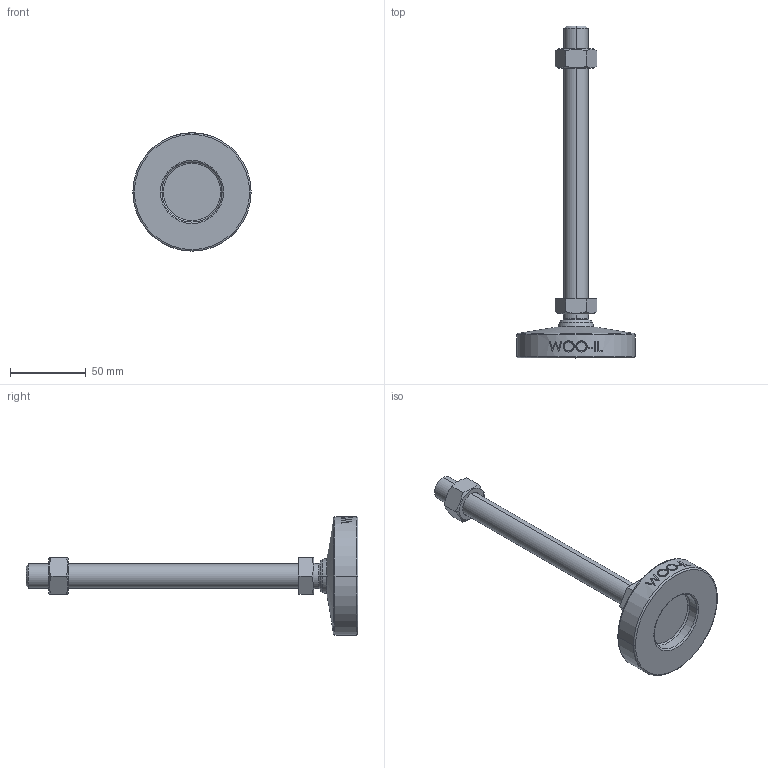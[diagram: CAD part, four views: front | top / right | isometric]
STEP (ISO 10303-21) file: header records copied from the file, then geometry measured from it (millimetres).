
FILE_DESCRIPTION (( 'STEP AP214' ), '1' );
FILE_NAME ('MFN78-M16-180.step', '2021-01-19T06:29:52', ( '' ), ( '' ), 'SwSTEP 2.0', 'SolidWorks 2019', '' );
FILE_SCHEMA (( 'AUTOMOTIVE_DESIGN' ));
Length unit declared in the file: millimetre
Products named in the file (2): MFN78-M16-180
Bounding box: 78 x 219 x 78 mm (x, y, z)
Volume: 123879.1 mm3; surface area: 27247.1 mm2
Topology: 2 solids, 2 shells, 109 faces, 253 edges, 160 vertices
Faces by surface type: plane 47, cone 18, cylinder 18, bspline 16, torus 8, sphere 2
Entity records: 4621 total; most frequent: CARTESIAN_POINT 2196, ORIENTED_EDGE 506, DIRECTION 461, EDGE_CURVE 253, AXIS2_PLACEMENT_3D 179, VERTEX_POINT 160, EDGE_LOOP 123, ADVANCED_FACE 109
